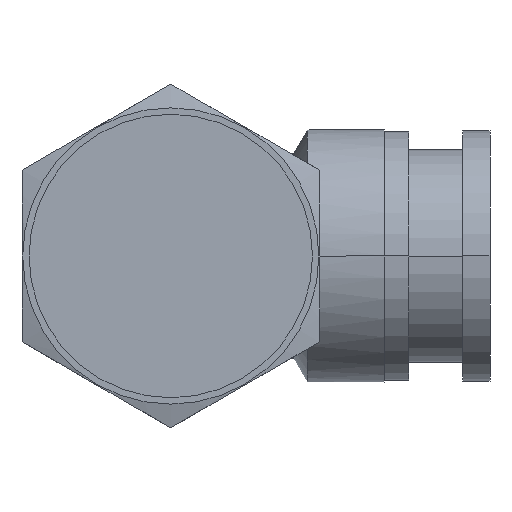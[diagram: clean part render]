
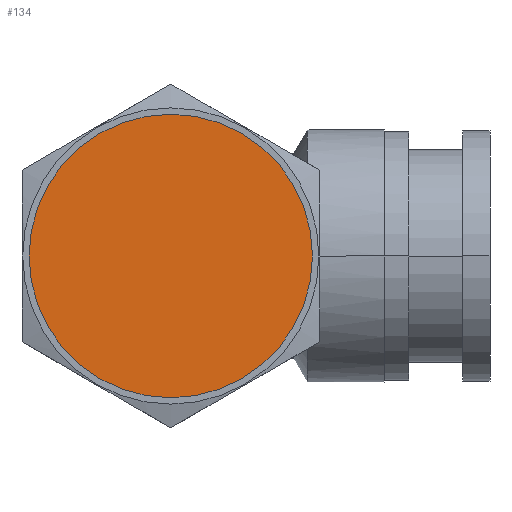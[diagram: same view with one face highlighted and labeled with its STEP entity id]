
A CAD part, front view. The second image highlights one B-rep face of the part: STEP entity #134.
In plain terms, the highlighted planar face has unit normal (0, -1, 0).
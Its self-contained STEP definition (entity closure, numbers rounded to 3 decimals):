
#134 = ADVANCED_FACE( '', ( #261 ), #262, .T. );
#261 = FACE_OUTER_BOUND( '', #388, .T. );
#262 = PLANE( '', #389 );
#388 = EDGE_LOOP( '', ( #853, #854 ) );
#389 = AXIS2_PLACEMENT_3D( '', #855, #856, #857 );
#853 = ORIENTED_EDGE( '', *, *, #861, .T. );
#854 = ORIENTED_EDGE( '', *, *, #1001, .T. );
#855 = CARTESIAN_POINT( '', ( -5.239, -6.45, 0. ) );
#856 = DIRECTION( '', ( 0., -1., 0. ) );
#857 = DIRECTION( '', ( -1., 0., 0. ) );
#861 = EDGE_CURVE( '', #1003, #1007, #1009, .T. );
#1001 = EDGE_CURVE( '', #1007, #1003, #1238, .T. );
#1003 = VERTEX_POINT( '', #1240 );
#1007 = VERTEX_POINT( '', #1245 );
#1009 = CIRCLE( '', #1248, 10.478 );
#1238 = CIRCLE( '', #1817, 10.478 );
#1240 = CARTESIAN_POINT( '', ( -10.478, -6.45, 0. ) );
#1245 = CARTESIAN_POINT( '', ( 10.478, -6.45, 0. ) );
#1248 = AXIS2_PLACEMENT_3D( '', #1823, #1824, #1825 );
#1817 = AXIS2_PLACEMENT_3D( '', #2041, #2042, #2043 );
#1823 = CARTESIAN_POINT( '', ( 0., -6.45, 0. ) );
#1824 = DIRECTION( '', ( 0., -1., 0. ) );
#1825 = DIRECTION( '', ( -1., 0., 0. ) );
#2041 = CARTESIAN_POINT( '', ( 0., -6.45, 0. ) );
#2042 = DIRECTION( '', ( 0., -1., 0. ) );
#2043 = DIRECTION( '', ( -1., 0., 0. ) );
